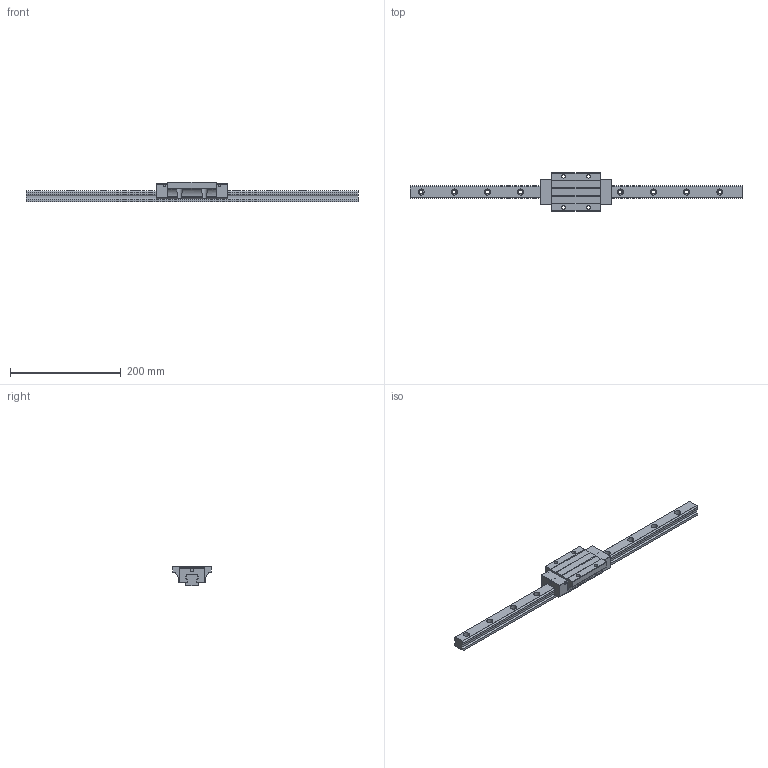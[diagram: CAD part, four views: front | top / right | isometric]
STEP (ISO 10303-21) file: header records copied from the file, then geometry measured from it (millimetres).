
FILE_DESCRIPTION (( 'STEP AP203' ), '1' );
FILE_NAME ('TRH25FE-WZ.STEP', '2024-05-09T01:03:18', ( '' ), ( '' ), 'SwSTEP 2.0', 'SolidWorks 2022', '' );
FILE_SCHEMA (( 'CONFIG_CONTROL_DESIGN' ));
Length unit declared in the file: millimetre
Products named in the file (1): TRH25FE-WZ
Bounding box: 600 x 70 x 36 mm (x, y, z)
Volume: 393008.6 mm3; surface area: 90317.6 mm2
Topology: 2 solids, 2 shells, 230 faces, 622 edges, 408 vertices
Faces by surface type: cylinder 130, plane 96, sphere 4
Entity records: 7873 total; most frequent: CARTESIAN_POINT 1819, DIRECTION 1274, ORIENTED_EDGE 1236, EDGE_CURVE 618, AXIS2_PLACEMENT_3D 459, VERTEX_POINT 408, VECTOR 356, LINE 356
